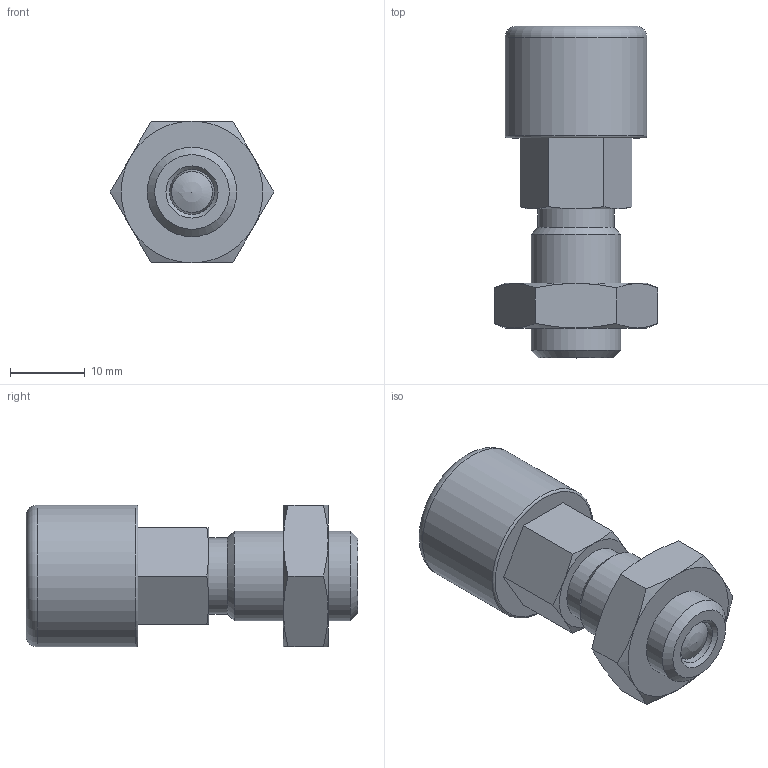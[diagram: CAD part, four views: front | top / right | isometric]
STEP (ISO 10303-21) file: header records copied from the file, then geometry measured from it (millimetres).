
FILE_DESCRIPTION( ( 'STEP AP203' ), '1' );
FILE_NAME( 'C:/Temp/Ganter_Step_05_03_2020/data/3_1/gn514/gn514_ak/Locking plunger GN 514-6-AK (deactivated).stp', '2020-03-12T08:32:07', ( 'License CC BY-ND 4.0' ), ( 'CADENAS' ), ' ', 'PARTsolutions', ' ' );
FILE_SCHEMA( ( 'CONFIG_CONTROL_DESIGN' ) );
Length unit declared in the file: millimetre
Products named in the file (3): Locking plunger GN 514-6-AK (deactivated); _Locking plunger GN 514-6-AK (deactivated)-1; _Locking plunger GN 514-6-AK (deactivated)-2
Assembly tree (2 placements, depth 2):
  Locking plunger GN 514-6-AK (deactivated)
    _Locking plunger GN 514-6-AK (deactivated)-1
    _Locking plunger GN 514-6-AK (deactivated)-2
Bounding box: 21.94 x 44.5 x 19 mm (x, y, z)
Volume: 7660.1 mm3; surface area: 5560.9 mm2
Topology: 2 solids, 2 shells, 83 faces, 168 edges, 101 vertices
Faces by surface type: plane 34, cone 23, cylinder 14, torus 10, bspline 1, sphere 1
Full cylindrical faces by diameter (mm): 6 x6, 8 x4, 10.2 x1, 12 x2, 19 x1
Entity records: 2229 total; most frequent: CARTESIAN_POINT 567, DIRECTION 322, ORIENTED_EDGE 266, AXIS2_PLACEMENT_3D 146, EDGE_CURVE 133, EDGE_LOOP 128, FACE_OUTER_BOUND 107, VERTEX_POINT 99
